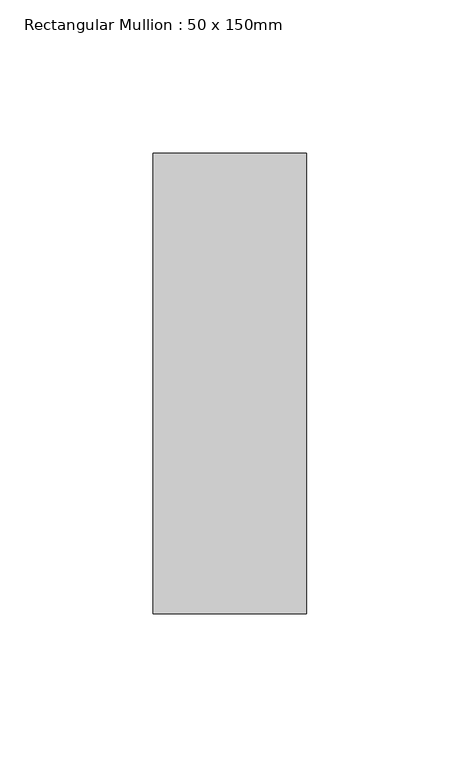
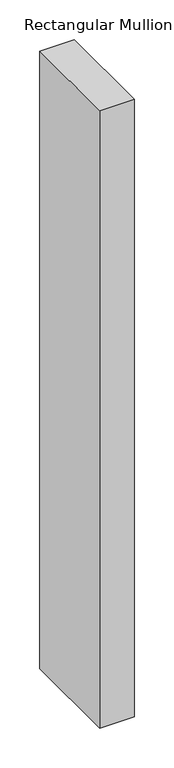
"""IFC4 building model written with IfcOpenShell, lengths in millimetres: member geometry, Rectangular Mullion : 50 x 150mm."""

import ifcopenshell
import ifcopenshell.guid

model = None  # the IFC model being written
_history = None  # IfcOwnerHistory: only IFC2X3 demands one
_inside = {}  # id of a spatial element -> (the spatial element, [elements in it])
_under = {}  # id of a project, library or spatial element -> (it, [spatial elements below it])
_declared = {}  # id of a project -> (the project, [libraries it declares])
_typed = {}  # id of a type object -> (the type object, [elements of that type])
_made_of = {}  # id of a material, layer set ... -> (it, [elements and type objects made of it])


def new_model(schema):
    """Start an empty IFC model of exactly this schema.

    Asked for "IFC4X3", IfcOpenShell would pick the latest addendum, in which some entities
    have other attributes; the version numbers below select the first issue.
    IFC2X3 requires an IfcOwnerHistory on every rooted entity: one is made here for all.
    """
    global model, _history
    if schema == "IFC4X3":
        model = ifcopenshell.file(schema_version=(4, 3, 0, 0))
    else:
        model = ifcopenshell.file(schema=schema)
    _inside.clear()
    _under.clear()
    _declared.clear()
    _typed.clear()
    _made_of.clear()
    _history = None
    if model.schema == "IFC2X3":
        org = make("IfcOrganization", Name="unknown")
        user = make(
            "IfcPersonAndOrganization",
            ThePerson=make("IfcPerson", FamilyName="unknown"),
            TheOrganization=org,
        )
        app = make(
            "IfcApplication",
            ApplicationDeveloper=org,
            Version="unknown",
            ApplicationFullName="unknown",
            ApplicationIdentifier="unknown",
        )
        _history = make(
            "IfcOwnerHistory",
            OwningUser=user,
            OwningApplication=app,
            ChangeAction="ADDED",
            CreationDate=0,
        )
    return model


def make(cls, **values):
    """One entity of the class cls with the attributes given. An attribute that is None is left unset."""
    return model.create_entity(
        cls, **{name: value for name, value in values.items() if value is not None}
    )


def rooted(cls, **values):
    """An entity with a GlobalId (a new one), such as an element, a storey or a relation."""
    return make(cls, GlobalId=ifcopenshell.guid.new(), OwnerHistory=_history, **values)


def si_unit(unit_type, name, prefix=None):
    """IfcSIUnit, for example si_unit("LENGTHUNIT", "METRE", prefix="MILLI")."""
    return make("IfcSIUnit", UnitType=unit_type, Prefix=prefix, Name=name)


def assignment(units):
    """IfcUnitAssignment: the units of a project."""
    return None if units is None else make("IfcUnitAssignment", Units=units)


def point(xyz):
    """IfcCartesianPoint."""
    return None if xyz is None else make("IfcCartesianPoint", Coordinates=xyz)


def direction(xyz):
    """IfcDirection."""
    return None if xyz is None else make("IfcDirection", DirectionRatios=xyz)


def frame(location, z_axis=None, x_axis=None):
    """IfcAxis2Placement3D, a coordinate frame: its origin and axes. An axis left out is left unset."""
    return make(
        "IfcAxis2Placement3D",
        Location=point(location),
        Axis=direction(z_axis),
        RefDirection=direction(x_axis),
    )


def origin():
    """The frame at (0, 0, 0) with its axes left unset."""
    return frame((0.0, 0.0, 0.0))


def place(relative_to, where):
    """IfcLocalPlacement: puts the frame where relative to a parent placement (None: the world)."""
    return make(
        "IfcLocalPlacement", PlacementRelTo=relative_to, RelativePlacement=where
    )


def context(
    kind, dimensions, precision=None, world=None, true_north=None, identifier=None
):
    """IfcGeometricRepresentationContext, for example the 3D "Model" context."""
    return make(
        "IfcGeometricRepresentationContext",
        ContextIdentifier=identifier,
        ContextType=kind,
        CoordinateSpaceDimension=dimensions,
        Precision=precision,
        WorldCoordinateSystem=world,
        TrueNorth=true_north,
    )


def project(units=None, contexts=None):
    """IfcProject with its units and contexts."""
    return rooted(
        "IfcProject",
        Name="project",
        RepresentationContexts=contexts,
        UnitsInContext=assignment(units),
    )


def spatial(cls, under=None, at=None, **own):
    """A site, building, storey or space (cls), placed at a placement, below another one or the project."""
    s = rooted(cls, ObjectPlacement=at, **own)
    if under is not None:
        _under.setdefault(under.id(), (under, []))[1].append(s)
    return s


def polyline(points):
    """IfcPolyline through the points."""
    return make("IfcPolyline", Points=[point(p) for p in points])


def outline(outer, holes=None, kind="AREA"):
    """IfcArbitraryClosedProfileDef: a profile drawn as a closed curve; with holes, ...WithVoids."""
    if holes is None:
        return make("IfcArbitraryClosedProfileDef", ProfileType=kind, OuterCurve=outer)
    return make(
        "IfcArbitraryProfileDefWithVoids",
        ProfileType=kind,
        OuterCurve=outer,
        InnerCurves=holes,
    )


def extrude(swept, where, along, depth):
    """IfcExtrudedAreaSolid: the profile swept, set in the frame where, extruded along a direction by depth."""
    return make(
        "IfcExtrudedAreaSolid",
        SweptArea=swept,
        Position=where,
        ExtrudedDirection=direction(along),
        Depth=depth,
    )


def shape(context_of_items, identifier, shape_type, items):
    """IfcShapeRepresentation: the items that make up one representation, for example the "Body"."""
    return make(
        "IfcShapeRepresentation",
        ContextOfItems=context_of_items,
        RepresentationIdentifier=identifier,
        RepresentationType=shape_type,
        Items=items,
    )


def source(mapping_origin, context_of_items, identifier, shape_type, items):
    """IfcRepresentationMap: a shape defined once, which mapped items show again and again."""
    return make(
        "IfcRepresentationMap",
        MappingOrigin=mapping_origin,
        MappedRepresentation=shape(context_of_items, identifier, shape_type, items),
    )


def transform(
    local_origin,
    x_axis=None,
    y_axis=None,
    z_axis=None,
    scale=None,
    scale2=None,
    scale3=None,
    uniform=True,
):
    """IfcCartesianTransformationOperator3D, or its non-uniform kind. x_axis, y_axis, z_axis: its Axis1, 2, 3."""
    if uniform:
        return make(
            "IfcCartesianTransformationOperator3D",
            Axis1=direction(x_axis),
            Axis2=direction(y_axis),
            LocalOrigin=point(local_origin),
            Scale=scale,
            Axis3=direction(z_axis),
        )
    return make(
        "IfcCartesianTransformationOperator3DnonUniform",
        Axis1=direction(x_axis),
        Axis2=direction(y_axis),
        LocalOrigin=point(local_origin),
        Scale=scale,
        Axis3=direction(z_axis),
        Scale2=scale2,
        Scale3=scale3,
    )


def mapped(mapping_source, mapping_target):
    """IfcMappedItem: shows the shape of a source again, moved by a transform."""
    return make(
        "IfcMappedItem", MappingSource=mapping_source, MappingTarget=mapping_target
    )


def made_of(thing, what):
    """Note that an element or type object is made of a material, layer set ...; save() writes the relation."""
    if what is not None:
        _made_of.setdefault(what.id(), (what, []))[1].append(thing)
    return thing


def element(
    cls,
    number,
    at=None,
    inside=None,
    cuts=None,
    type_object=None,
    material=None,
    context=None,
    identifier="Body",
    shape_type=None,
    held_by="IfcProductDefinitionShape",
    body=None,
    shapes=None,
    **own,
):
    """One element of the class cls, such as IfcWall. Its Tag is "e" and its number.

    at: its placement. inside: the storey or other place that contains it. cuts: it is an
    opening in that element (IfcRelVoidsElement). A single representation is given by context,
    identifier, shape_type and body (its items); several are given by shapes. held_by: the class
    of the entity that holds the representations. save() writes the other relations.
    """
    e = rooted(cls, Tag="e%d" % number, ObjectPlacement=at, **own)
    if body is not None:
        shapes = [shape(context, identifier, shape_type, body)]
    if shapes is not None:
        e.Representation = make(held_by, Representations=shapes)
    if inside is not None:
        _inside.setdefault(inside.id(), (inside, []))[1].append(e)
    if cuts is not None:
        rooted(
            "IfcRelVoidsElement", RelatingBuildingElement=cuts, RelatedOpeningElement=e
        )
    if type_object is not None:
        _typed.setdefault(type_object.id(), (type_object, []))[1].append(e)
    return made_of(e, material)


def aggregate(whole, parts):
    """IfcRelAggregates: a whole, such as a stair, and the parts it consists of."""
    return rooted("IfcRelAggregates", RelatingObject=whole, RelatedObjects=parts)


def save(model, path):
    """Write the relations noted so far, then the file.

    IfcRelAggregates (storeys below a building ...), IfcRelContainedInSpatialStructure (elements
    in a storey), IfcRelDefinesByType, IfcRelAssociatesMaterial and IfcRelDeclares: one each for
    every whole, place, type object, material and project.
    """
    for whole, parts in _under.values():
        aggregate(whole, parts)
    for where, things in _inside.values():
        rooted(
            "IfcRelContainedInSpatialStructure",
            RelatedElements=things,
            RelatingStructure=where,
        )
    for kind, things in _typed.values():
        rooted("IfcRelDefinesByType", RelatedObjects=things, RelatingType=kind)
    for what, things in _made_of.values():
        rooted("IfcRelAssociatesMaterial", RelatedObjects=things, RelatingMaterial=what)
    for by, libraries in _declared.values():
        rooted("IfcRelDeclares", RelatingContext=by, RelatedDefinitions=libraries)
    model.write(path)


def rectangular_mullion_50_x_150mm_11b422a4(model_context):
    return source(origin(), model_context, "Body", "SweptSolid", [
        extrude(outline(polyline([(0.0, 75.0), (0.0, -75.0), (-50.0, -75.0), (-50.0, 75.0), (0.0, 75.0)])), frame((0.0, 0.0, -945.7910895), z_axis=(0.0, 0.0, 1.0), x_axis=(1.0, 0.0, 0.0)), (0.0, 0.0, 1.0), 945.7910895),
    ])


if __name__ == "__main__":
    model = new_model("IFC4")
    model_context = context("Model", 3, world=origin())
    ifc_project = project(units=[si_unit("LENGTHUNIT", "METRE", prefix="MILLI")], contexts=[model_context])
    site = spatial("IfcSite", under=ifc_project)
    building = spatial("IfcBuilding", under=site)
    placement = place(None, origin())
    rectangular_mullion_50_x_150mm_shape = rectangular_mullion_50_x_150mm_11b422a4(model_context)
    element("IfcMember", 1, ObjectType="Rectangular Mullion : 50 x 150mm", at=placement, inside=building, context=model_context, shape_type="MappedRepresentation", body=[
        mapped(rectangular_mullion_50_x_150mm_shape, transform((0.0, 0.0, 0.0), x_axis=(1.0, 0.0, 0.0), y_axis=(0.0, 1.0, 0.0), z_axis=(0.0, 0.0, 1.0))),
    ])
    save(model, "model.ifc")
